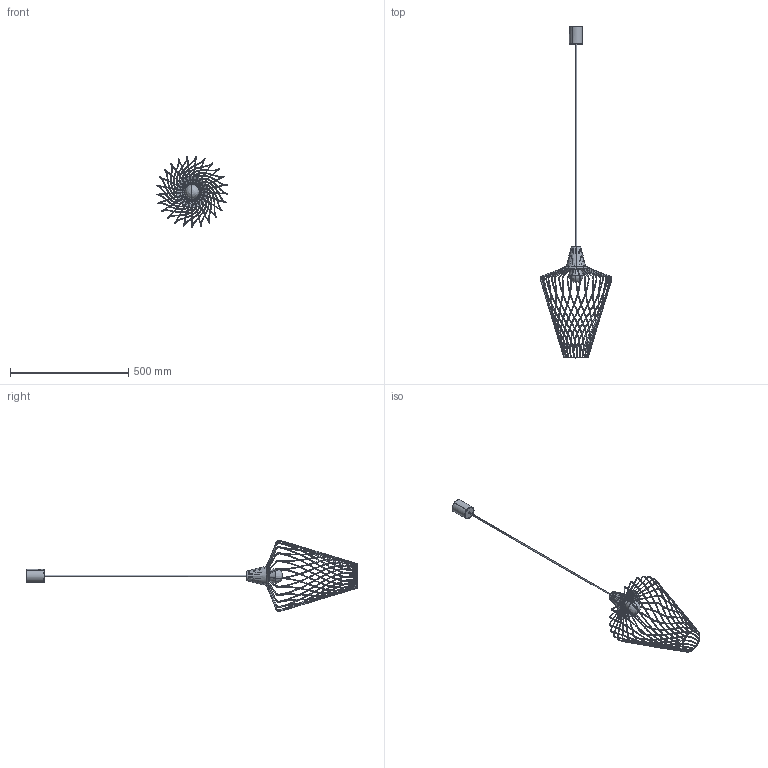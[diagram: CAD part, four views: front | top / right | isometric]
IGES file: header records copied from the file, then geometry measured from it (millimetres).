
Global section: file name: C:\Users\DELL\Desktop\Nowy folder\Wave\Wave long_E27.igs; native system: Rhinoceros ( May 22 2017 ); preprocessor: Trout Lake IGES 012 May 22 2017; date: 191203.090851; units: millimetre
Bounding box: 302.39 x 1401.97 x 302 mm (x, y, z)
Surface area: 315883.4 mm2 (no closed solid volume)
Topology: 0 solids, 0 shells, 885 faces, 4840 edges, 4820 vertices
Faces by surface type: bspline 885
